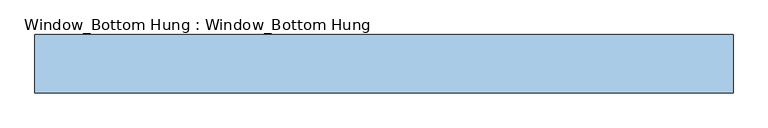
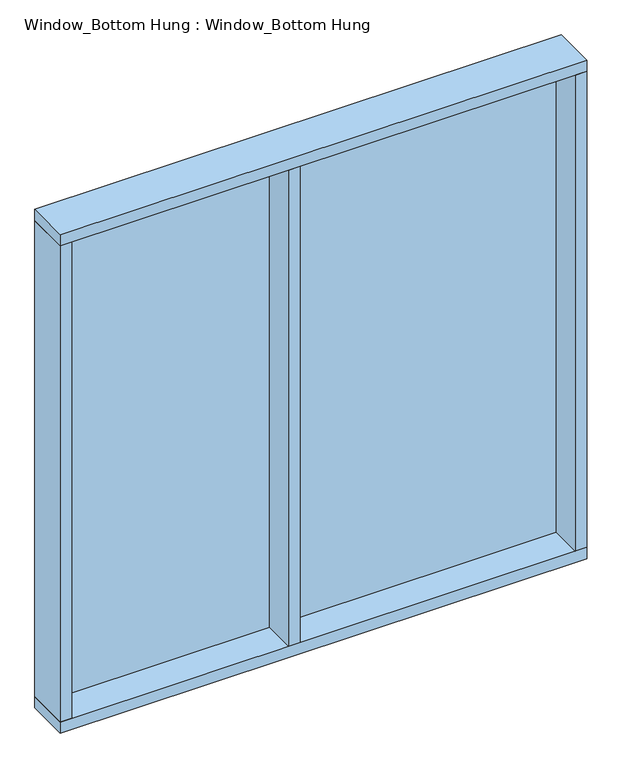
"""IFC4 building model written with IfcOpenShell, lengths in millimetres: window geometry, Window_Bottom Hung : Window_Bottom Hung."""

import ifcopenshell
import ifcopenshell.guid

model = None  # the IFC model being written
_history = None  # IfcOwnerHistory: only IFC2X3 demands one
_inside = {}  # id of a spatial element -> (the spatial element, [elements in it])
_under = {}  # id of a project, library or spatial element -> (it, [spatial elements below it])
_declared = {}  # id of a project -> (the project, [libraries it declares])
_typed = {}  # id of a type object -> (the type object, [elements of that type])
_made_of = {}  # id of a material, layer set ... -> (it, [elements and type objects made of it])


def new_model(schema):
    """Start an empty IFC model of exactly this schema.

    Asked for "IFC4X3", IfcOpenShell would pick the latest addendum, in which some entities
    have other attributes; the version numbers below select the first issue.
    IFC2X3 requires an IfcOwnerHistory on every rooted entity: one is made here for all.
    """
    global model, _history
    if schema == "IFC4X3":
        model = ifcopenshell.file(schema_version=(4, 3, 0, 0))
    else:
        model = ifcopenshell.file(schema=schema)
    _inside.clear()
    _under.clear()
    _declared.clear()
    _typed.clear()
    _made_of.clear()
    _history = None
    if model.schema == "IFC2X3":
        org = make("IfcOrganization", Name="unknown")
        user = make(
            "IfcPersonAndOrganization",
            ThePerson=make("IfcPerson", FamilyName="unknown"),
            TheOrganization=org,
        )
        app = make(
            "IfcApplication",
            ApplicationDeveloper=org,
            Version="unknown",
            ApplicationFullName="unknown",
            ApplicationIdentifier="unknown",
        )
        _history = make(
            "IfcOwnerHistory",
            OwningUser=user,
            OwningApplication=app,
            ChangeAction="ADDED",
            CreationDate=0,
        )
    return model


def make(cls, **values):
    """One entity of the class cls with the attributes given. An attribute that is None is left unset."""
    return model.create_entity(
        cls, **{name: value for name, value in values.items() if value is not None}
    )


def rooted(cls, **values):
    """An entity with a GlobalId (a new one), such as an element, a storey or a relation."""
    return make(cls, GlobalId=ifcopenshell.guid.new(), OwnerHistory=_history, **values)


def si_unit(unit_type, name, prefix=None):
    """IfcSIUnit, for example si_unit("LENGTHUNIT", "METRE", prefix="MILLI")."""
    return make("IfcSIUnit", UnitType=unit_type, Prefix=prefix, Name=name)


def assignment(units):
    """IfcUnitAssignment: the units of a project."""
    return None if units is None else make("IfcUnitAssignment", Units=units)


def point(xyz):
    """IfcCartesianPoint."""
    return None if xyz is None else make("IfcCartesianPoint", Coordinates=xyz)


def direction(xyz):
    """IfcDirection."""
    return None if xyz is None else make("IfcDirection", DirectionRatios=xyz)


def frame(location, z_axis=None, x_axis=None):
    """IfcAxis2Placement3D, a coordinate frame: its origin and axes. An axis left out is left unset."""
    return make(
        "IfcAxis2Placement3D",
        Location=point(location),
        Axis=direction(z_axis),
        RefDirection=direction(x_axis),
    )


def origin():
    """The frame at (0, 0, 0) with its axes left unset."""
    return frame((0.0, 0.0, 0.0))


def place(relative_to, where):
    """IfcLocalPlacement: puts the frame where relative to a parent placement (None: the world)."""
    return make(
        "IfcLocalPlacement", PlacementRelTo=relative_to, RelativePlacement=where
    )


def context(
    kind, dimensions, precision=None, world=None, true_north=None, identifier=None
):
    """IfcGeometricRepresentationContext, for example the 3D "Model" context."""
    return make(
        "IfcGeometricRepresentationContext",
        ContextIdentifier=identifier,
        ContextType=kind,
        CoordinateSpaceDimension=dimensions,
        Precision=precision,
        WorldCoordinateSystem=world,
        TrueNorth=true_north,
    )


def project(units=None, contexts=None):
    """IfcProject with its units and contexts."""
    return rooted(
        "IfcProject",
        Name="project",
        RepresentationContexts=contexts,
        UnitsInContext=assignment(units),
    )


def spatial(cls, under=None, at=None, **own):
    """A site, building, storey or space (cls), placed at a placement, below another one or the project."""
    s = rooted(cls, ObjectPlacement=at, **own)
    if under is not None:
        _under.setdefault(under.id(), (under, []))[1].append(s)
    return s


def polyline(points):
    """IfcPolyline through the points."""
    return make("IfcPolyline", Points=[point(p) for p in points])


def outline(outer, holes=None, kind="AREA"):
    """IfcArbitraryClosedProfileDef: a profile drawn as a closed curve; with holes, ...WithVoids."""
    if holes is None:
        return make("IfcArbitraryClosedProfileDef", ProfileType=kind, OuterCurve=outer)
    return make(
        "IfcArbitraryProfileDefWithVoids",
        ProfileType=kind,
        OuterCurve=outer,
        InnerCurves=holes,
    )


def extrude(swept, where, along, depth):
    """IfcExtrudedAreaSolid: the profile swept, set in the frame where, extruded along a direction by depth."""
    return make(
        "IfcExtrudedAreaSolid",
        SweptArea=swept,
        Position=where,
        ExtrudedDirection=direction(along),
        Depth=depth,
    )


def shape(context_of_items, identifier, shape_type, items):
    """IfcShapeRepresentation: the items that make up one representation, for example the "Body"."""
    return make(
        "IfcShapeRepresentation",
        ContextOfItems=context_of_items,
        RepresentationIdentifier=identifier,
        RepresentationType=shape_type,
        Items=items,
    )


def source(mapping_origin, context_of_items, identifier, shape_type, items):
    """IfcRepresentationMap: a shape defined once, which mapped items show again and again."""
    return make(
        "IfcRepresentationMap",
        MappingOrigin=mapping_origin,
        MappedRepresentation=shape(context_of_items, identifier, shape_type, items),
    )


def transform(
    local_origin,
    x_axis=None,
    y_axis=None,
    z_axis=None,
    scale=None,
    scale2=None,
    scale3=None,
    uniform=True,
):
    """IfcCartesianTransformationOperator3D, or its non-uniform kind. x_axis, y_axis, z_axis: its Axis1, 2, 3."""
    if uniform:
        return make(
            "IfcCartesianTransformationOperator3D",
            Axis1=direction(x_axis),
            Axis2=direction(y_axis),
            LocalOrigin=point(local_origin),
            Scale=scale,
            Axis3=direction(z_axis),
        )
    return make(
        "IfcCartesianTransformationOperator3DnonUniform",
        Axis1=direction(x_axis),
        Axis2=direction(y_axis),
        LocalOrigin=point(local_origin),
        Scale=scale,
        Axis3=direction(z_axis),
        Scale2=scale2,
        Scale3=scale3,
    )


def mapped(mapping_source, mapping_target):
    """IfcMappedItem: shows the shape of a source again, moved by a transform."""
    return make(
        "IfcMappedItem", MappingSource=mapping_source, MappingTarget=mapping_target
    )


def made_of(thing, what):
    """Note that an element or type object is made of a material, layer set ...; save() writes the relation."""
    if what is not None:
        _made_of.setdefault(what.id(), (what, []))[1].append(thing)
    return thing


def element(
    cls,
    number,
    at=None,
    inside=None,
    cuts=None,
    type_object=None,
    material=None,
    context=None,
    identifier="Body",
    shape_type=None,
    held_by="IfcProductDefinitionShape",
    body=None,
    shapes=None,
    **own,
):
    """One element of the class cls, such as IfcWall. Its Tag is "e" and its number.

    at: its placement. inside: the storey or other place that contains it. cuts: it is an
    opening in that element (IfcRelVoidsElement). A single representation is given by context,
    identifier, shape_type and body (its items); several are given by shapes. held_by: the class
    of the entity that holds the representations. save() writes the other relations.
    """
    e = rooted(cls, Tag="e%d" % number, ObjectPlacement=at, **own)
    if body is not None:
        shapes = [shape(context, identifier, shape_type, body)]
    if shapes is not None:
        e.Representation = make(held_by, Representations=shapes)
    if inside is not None:
        _inside.setdefault(inside.id(), (inside, []))[1].append(e)
    if cuts is not None:
        rooted(
            "IfcRelVoidsElement", RelatingBuildingElement=cuts, RelatedOpeningElement=e
        )
    if type_object is not None:
        _typed.setdefault(type_object.id(), (type_object, []))[1].append(e)
    return made_of(e, material)


def aggregate(whole, parts):
    """IfcRelAggregates: a whole, such as a stair, and the parts it consists of."""
    return rooted("IfcRelAggregates", RelatingObject=whole, RelatedObjects=parts)


def save(model, path):
    """Write the relations noted so far, then the file.

    IfcRelAggregates (storeys below a building ...), IfcRelContainedInSpatialStructure (elements
    in a storey), IfcRelDefinesByType, IfcRelAssociatesMaterial and IfcRelDeclares: one each for
    every whole, place, type object, material and project.
    """
    for whole, parts in _under.values():
        aggregate(whole, parts)
    for where, things in _inside.values():
        rooted(
            "IfcRelContainedInSpatialStructure",
            RelatedElements=things,
            RelatingStructure=where,
        )
    for kind, things in _typed.values():
        rooted("IfcRelDefinesByType", RelatedObjects=things, RelatingType=kind)
    for what, things in _made_of.values():
        rooted("IfcRelAssociatesMaterial", RelatedObjects=things, RelatingMaterial=what)
    for by, libraries in _declared.values():
        rooted("IfcRelDeclares", RelatingContext=by, RelatedDefinitions=libraries)
    model.write(path)


def window_bottom_hung_window_bottom_hung_26d81d5b(model_context):
    return source(origin(), model_context, "Body", "SweptSolid", [
        extrude(outline(polyline([(860.0, 38.0), (-80.0, 38.0), (-80.0, 50.0), (860.0, 50.0), (860.0, 38.0)])), frame((0.0, 0.0, 1040.0), z_axis=(0.0, 0.0, 1.0), x_axis=(1.0, 0.0, 0.0)), (0.0, 0.0, 1.0), 1720.0),
        extrude(outline(polyline([(-120.0, 38.0), (-860.0, 38.0), (-860.0, 50.0), (-120.0, 50.0), (-120.0, 38.0)])), frame((0.0, 0.0, 1040.0), z_axis=(0.0, 0.0, 1.0), x_axis=(1.0, 0.0, 0.0)), (0.0, 0.0, 1.0), 1720.0),
        extrude(outline(polyline([(900.0, 75.0), (900.0, -75.0), (-900.0, -75.0), (-900.0, 75.0), (900.0, 75.0)])), frame((0.0, 0.0, 2760.0), z_axis=(0.0, 0.0, 1.0), x_axis=(1.0, 0.0, 0.0)), (0.0, 0.0, 1.0), 40.0),
        extrude(outline(polyline([(900.0, 75.0), (900.0, -75.0), (-900.0, -75.0), (-900.0, 75.0), (900.0, 75.0)])), frame((0.0, 0.0, 1000.0), z_axis=(0.0, 0.0, 1.0), x_axis=(1.0, 0.0, 0.0)), (0.0, 0.0, 1.0), 40.0),
        extrude(outline(polyline([(-120.0, -75.0), (-120.0, 75.0), (-80.0, 75.0), (-80.0, -75.0), (-120.0, -75.0)])), frame((0.0, 0.0, 1040.0), z_axis=(0.0, 0.0, 1.0), x_axis=(1.0, 0.0, 0.0)), (0.0, 0.0, 1.0), 1720.0),
        extrude(outline(polyline([(-860.0, -75.0), (-900.0, -75.0), (-900.0, 75.0), (-860.0, 75.0), (-860.0, -75.0)])), frame((0.0, 0.0, 1040.0), z_axis=(0.0, 0.0, 1.0), x_axis=(1.0, 0.0, 0.0)), (0.0, 0.0, 1.0), 1720.0),
        extrude(outline(polyline([(860.0, -75.0), (860.0, 75.0), (900.0, 75.0), (900.0, -75.0), (860.0, -75.0)])), frame((0.0, 0.0, 1040.0), z_axis=(0.0, 0.0, 1.0), x_axis=(1.0, 0.0, 0.0)), (0.0, 0.0, 1.0), 1720.0),
    ])


if __name__ == "__main__":
    model = new_model("IFC4")
    model_context = context("Model", 3, world=origin())
    ifc_project = project(units=[si_unit("LENGTHUNIT", "METRE", prefix="MILLI")], contexts=[model_context])
    site = spatial("IfcSite", under=ifc_project)
    building = spatial("IfcBuilding", under=site)
    placement = place(None, origin())
    window_bottom_hung_window_bottom_hung_shape = window_bottom_hung_window_bottom_hung_26d81d5b(model_context)
    element("IfcWindow", 1, ObjectType="Window_Bottom Hung : Window_Bottom Hung", at=placement, inside=building, context=model_context, shape_type="MappedRepresentation", body=[
        mapped(window_bottom_hung_window_bottom_hung_shape, transform((0.0, 0.0, 0.0), x_axis=(1.0, 0.0, 0.0), y_axis=(0.0, 1.0, 0.0), z_axis=(0.0, 0.0, 1.0))),
    ])
    save(model, "model.ifc")
